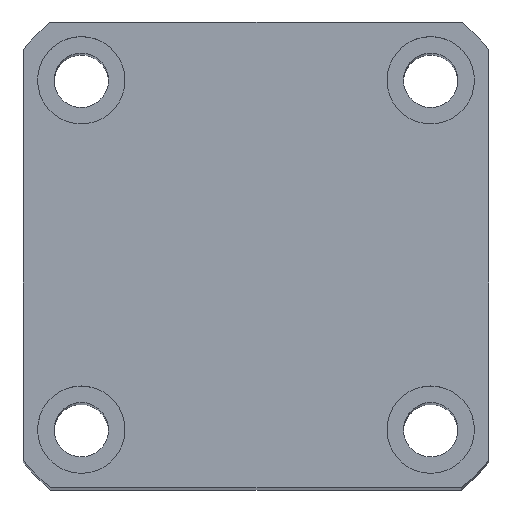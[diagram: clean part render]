
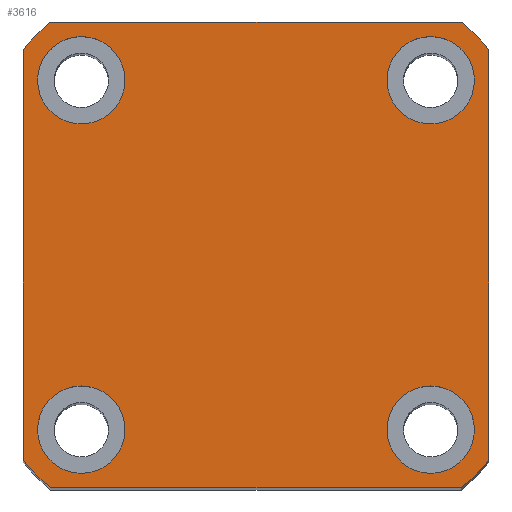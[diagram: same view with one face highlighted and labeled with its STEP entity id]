
A CAD part, top view. The second image highlights one B-rep face of the part: STEP entity #3616.
In plain terms, the highlighted planar face has unit normal (0, 0, 1) as drawn and (1, 0, 0) by its records, which use the part's own axes.
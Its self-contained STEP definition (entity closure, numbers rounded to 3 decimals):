
#107 = AXIS2_PLACEMENT_3D ( 'NONE', #2371, #8158, #3202 ) ;
#144 = VERTEX_POINT ( 'NONE', #2445 ) ;
#154 = EDGE_CURVE ( 'NONE', #7585, #144, #7781, .T. ) ;
#161 = VERTEX_POINT ( 'NONE', #7511 ) ;
#187 = LINE ( 'NONE', #5322, #8784 ) ;
#409 = CIRCLE ( 'NONE', #8083, 32. ) ;
#440 = VERTEX_POINT ( 'NONE', #10411 ) ;
#455 = ORIENTED_EDGE ( 'NONE', *, *, #6711, .F. ) ;
#601 = CIRCLE ( 'NONE', #107, 32. ) ;
#608 = VECTOR ( 'NONE', #2687, 1000. ) ;
#642 = EDGE_CURVE ( 'NONE', #7098, #1463, #7905, .T. ) ;
#686 = CARTESIAN_POINT ( 'NONE',  ( 125., -18., -22.5 ) ) ;
#714 = EDGE_CURVE ( 'NONE', #144, #7585, #5673, .T. ) ;
#731 = AXIS2_PLACEMENT_3D ( 'NONE', #8481, #8741, #4998 ) ;
#846 = VERTEX_POINT ( 'NONE', #9102 ) ;
#925 = DIRECTION ( 'NONE',  ( 1., 0., 0. ) ) ;
#1073 = CARTESIAN_POINT ( 'NONE',  ( 125., 24., 24. ) ) ;
#1349 = EDGE_LOOP ( 'NONE', ( #3895, #455 ) ) ;
#1358 = DIRECTION ( 'NONE',  ( 1., 0., 0. ) ) ;
#1382 = EDGE_CURVE ( 'NONE', #5609, #3676, #7243, .T. ) ;
#1463 = VERTEX_POINT ( 'NONE', #5955 ) ;
#1531 = DIRECTION ( 'NONE',  ( 1., 0., 0. ) ) ;
#1601 = DIRECTION ( 'NONE',  ( 0., 1., 0. ) ) ;
#1645 = ORIENTED_EDGE ( 'NONE', *, *, #7937, .F. ) ;
#1651 = CARTESIAN_POINT ( 'NONE',  ( 125., -18., 18. ) ) ;
#1656 = DIRECTION ( 'NONE',  ( 1., 0., 0. ) ) ;
#1802 = DIRECTION ( 'NONE',  ( 0., 0., -1. ) ) ;
#1837 = DIRECTION ( 'NONE',  ( 1., 0., 0. ) ) ;
#1847 = EDGE_CURVE ( 'NONE', #846, #9527, #10083, .T. ) ;
#1982 = CARTESIAN_POINT ( 'NONE',  ( 125., -18., 18. ) ) ;
#2005 = EDGE_CURVE ( 'NONE', #4894, #4930, #2453, .T. ) ;
#2145 = CARTESIAN_POINT ( 'NONE',  ( 125., 0., 0. ) ) ;
#2151 = AXIS2_PLACEMENT_3D ( 'NONE', #1982, #1358, #6234 ) ;
#2249 = CIRCLE ( 'NONE', #8920, 32. ) ;
#2297 = ORIENTED_EDGE ( 'NONE', *, *, #2005, .T. ) ;
#2303 = CARTESIAN_POINT ( 'NONE',  ( 125., 21.166, 24. ) ) ;
#2371 = CARTESIAN_POINT ( 'NONE',  ( 125., 0., 0. ) ) ;
#2389 = AXIS2_PLACEMENT_3D ( 'NONE', #6618, #1656, #7467 ) ;
#2400 = VERTEX_POINT ( 'NONE', #6145 ) ;
#2445 = CARTESIAN_POINT ( 'NONE',  ( 125., -18., 13.5 ) ) ;
#2453 = CIRCLE ( 'NONE', #7414, 32. ) ;
#2476 = EDGE_LOOP ( 'NONE', ( #1645, #4231 ) ) ;
#2517 = EDGE_CURVE ( 'NONE', #161, #2400, #2851, .T. ) ;
#2606 = CARTESIAN_POINT ( 'NONE',  ( 125., 18., -18. ) ) ;
#2687 = DIRECTION ( 'NONE',  ( 0., -1., 0. ) ) ;
#2851 = LINE ( 'NONE', #4678, #4760 ) ;
#2986 = DIRECTION ( 'NONE',  ( 0., 0., -1. ) ) ;
#3003 = ORIENTED_EDGE ( 'NONE', *, *, #9762, .T. ) ;
#3158 = CIRCLE ( 'NONE', #9338, 4.5 ) ;
#3202 = DIRECTION ( 'NONE',  ( 0., 0., -1. ) ) ;
#3322 = DIRECTION ( 'NONE',  ( 1., 0., 0. ) ) ;
#3353 = ORIENTED_EDGE ( 'NONE', *, *, #7328, .F. ) ;
#3419 = DIRECTION ( 'NONE',  ( 0., 0., -1. ) ) ;
#3546 = DIRECTION ( 'NONE',  ( 0., 0., -1. ) ) ;
#3594 = CARTESIAN_POINT ( 'NONE',  ( 125., 0., 0. ) ) ;
#3595 = AXIS2_PLACEMENT_3D ( 'NONE', #5242, #925, #3546 ) ;
#3602 = ORIENTED_EDGE ( 'NONE', *, *, #5655, .T. ) ;
#3616 = ADVANCED_FACE ( 'NONE', ( #6461, #4015, #10606, #4539, #8416 ), #5961, .T. ) ;
#3676 = VERTEX_POINT ( 'NONE', #9085 ) ;
#3895 = ORIENTED_EDGE ( 'NONE', *, *, #5817, .F. ) ;
#3900 = ORIENTED_EDGE ( 'NONE', *, *, #8446, .T. ) ;
#3985 = AXIS2_PLACEMENT_3D ( 'NONE', #6485, #1531, #7329 ) ;
#4015 = FACE_BOUND ( 'NONE', #9839, .T. ) ;
#4231 = ORIENTED_EDGE ( 'NONE', *, *, #1847, .F. ) ;
#4439 = VECTOR ( 'NONE', #1601, 1000. ) ;
#4539 = FACE_BOUND ( 'NONE', #5759, .T. ) ;
#4672 = ORIENTED_EDGE ( 'NONE', *, *, #1382, .T. ) ;
#4677 = CARTESIAN_POINT ( 'NONE',  ( 125., -21.166, -24. ) ) ;
#4678 = CARTESIAN_POINT ( 'NONE',  ( 125., -24., 24. ) ) ;
#4692 = CARTESIAN_POINT ( 'NONE',  ( 125., -18., 22.5 ) ) ;
#4760 = VECTOR ( 'NONE', #10740, 1000. ) ;
#4894 = VERTEX_POINT ( 'NONE', #7238 ) ;
#4916 = CARTESIAN_POINT ( 'NONE',  ( 125., -18., -18. ) ) ;
#4930 = VERTEX_POINT ( 'NONE', #8976 ) ;
#4997 = CARTESIAN_POINT ( 'NONE',  ( 125., 18., -22.5 ) ) ;
#4998 = DIRECTION ( 'NONE',  ( 0., 0., -1. ) ) ;
#5242 = CARTESIAN_POINT ( 'NONE',  ( 125., 18., 18. ) ) ;
#5252 = AXIS2_PLACEMENT_3D ( 'NONE', #1651, #7793, #1802 ) ;
#5322 = CARTESIAN_POINT ( 'NONE',  ( 125., 24., 24. ) ) ;
#5344 = CARTESIAN_POINT ( 'NONE',  ( 125., 18., 22.5 ) ) ;
#5470 = AXIS2_PLACEMENT_3D ( 'NONE', #6789, #1837, #7634 ) ;
#5609 = VERTEX_POINT ( 'NONE', #2303 ) ;
#5655 = EDGE_CURVE ( 'NONE', #3676, #161, #601, .T. ) ;
#5673 = CIRCLE ( 'NONE', #5252, 4.5 ) ;
#5738 = DIRECTION ( 'NONE',  ( 0., 0., -1. ) ) ;
#5758 = VERTEX_POINT ( 'NONE', #8189 ) ;
#5759 = EDGE_LOOP ( 'NONE', ( #3353, #9058 ) ) ;
#5817 = EDGE_CURVE ( 'NONE', #8773, #440, #8669, .T. ) ;
#5955 = CARTESIAN_POINT ( 'NONE',  ( 125., 18., 13.5 ) ) ;
#5961 = PLANE ( 'NONE',  #5470 ) ;
#6145 = CARTESIAN_POINT ( 'NONE',  ( 125., -24., -21.166 ) ) ;
#6234 = DIRECTION ( 'NONE',  ( 0., 0., -1. ) ) ;
#6322 = ORIENTED_EDGE ( 'NONE', *, *, #8432, .T. ) ;
#6461 = FACE_BOUND ( 'NONE', #1349, .T. ) ;
#6485 = CARTESIAN_POINT ( 'NONE',  ( 125., 18., 18. ) ) ;
#6566 = CARTESIAN_POINT ( 'NONE',  ( 125., 24., -24. ) ) ;
#6618 = CARTESIAN_POINT ( 'NONE',  ( 125., -18., -18. ) ) ;
#6623 = LINE ( 'NONE', #6566, #4439 ) ;
#6711 = EDGE_CURVE ( 'NONE', #440, #8773, #8871, .T. ) ;
#6789 = CARTESIAN_POINT ( 'NONE',  ( 125., 0., 0. ) ) ;
#7007 = DIRECTION ( 'NONE',  ( 0., 0., 1. ) ) ;
#7098 = VERTEX_POINT ( 'NONE', #5344 ) ;
#7144 = EDGE_CURVE ( 'NONE', #5758, #5609, #409, .T. ) ;
#7238 = CARTESIAN_POINT ( 'NONE',  ( 125., 21.166, -24. ) ) ;
#7243 = LINE ( 'NONE', #1073, #608 ) ;
#7328 = EDGE_CURVE ( 'NONE', #1463, #7098, #7954, .T. ) ;
#7329 = DIRECTION ( 'NONE',  ( 0., 0., -1. ) ) ;
#7414 = AXIS2_PLACEMENT_3D ( 'NONE', #3594, #9576, #9359 ) ;
#7467 = DIRECTION ( 'NONE',  ( 0., 0., -1. ) ) ;
#7511 = CARTESIAN_POINT ( 'NONE',  ( 125., -24., 21.166 ) ) ;
#7561 = ORIENTED_EDGE ( 'NONE', *, *, #7144, .T. ) ;
#7585 = VERTEX_POINT ( 'NONE', #4692 ) ;
#7634 = DIRECTION ( 'NONE',  ( 0., 0., -1. ) ) ;
#7781 = CIRCLE ( 'NONE', #2151, 4.5 ) ;
#7793 = DIRECTION ( 'NONE',  ( 1., 0., 0. ) ) ;
#7864 = ORIENTED_EDGE ( 'NONE', *, *, #154, .F. ) ;
#7905 = CIRCLE ( 'NONE', #3595, 4.5 ) ;
#7931 = DIRECTION ( 'NONE',  ( 1., 0., 0. ) ) ;
#7937 = EDGE_CURVE ( 'NONE', #9527, #846, #3158, .T. ) ;
#7954 = CIRCLE ( 'NONE', #3985, 4.5 ) ;
#8083 = AXIS2_PLACEMENT_3D ( 'NONE', #2145, #7931, #2986 ) ;
#8158 = DIRECTION ( 'NONE',  ( 1., 0., 0. ) ) ;
#8189 = CARTESIAN_POINT ( 'NONE',  ( 125., 24., 21.166 ) ) ;
#8279 = CARTESIAN_POINT ( 'NONE',  ( 125., 0., 0. ) ) ;
#8328 = ORIENTED_EDGE ( 'NONE', *, *, #2517, .T. ) ;
#8377 = DIRECTION ( 'NONE',  ( 1., 0., 0. ) ) ;
#8416 = FACE_OUTER_BOUND ( 'NONE', #9460, .T. ) ;
#8432 = EDGE_CURVE ( 'NONE', #9889, #4894, #6623, .T. ) ;
#8446 = EDGE_CURVE ( 'NONE', #2400, #9889, #2249, .T. ) ;
#8481 = CARTESIAN_POINT ( 'NONE',  ( 125., 18., -18. ) ) ;
#8669 = CIRCLE ( 'NONE', #2389, 4.5 ) ;
#8741 = DIRECTION ( 'NONE',  ( 1., 0., 0. ) ) ;
#8773 = VERTEX_POINT ( 'NONE', #686 ) ;
#8784 = VECTOR ( 'NONE', #7007, 1000. ) ;
#8871 = CIRCLE ( 'NONE', #9948, 4.5 ) ;
#8920 = AXIS2_PLACEMENT_3D ( 'NONE', #8279, #3322, #9126 ) ;
#8976 = CARTESIAN_POINT ( 'NONE',  ( 125., 24., -21.166 ) ) ;
#9058 = ORIENTED_EDGE ( 'NONE', *, *, #642, .F. ) ;
#9059 = ORIENTED_EDGE ( 'NONE', *, *, #714, .F. ) ;
#9085 = CARTESIAN_POINT ( 'NONE',  ( 125., -21.166, 24. ) ) ;
#9102 = CARTESIAN_POINT ( 'NONE',  ( 125., 18., -13.5 ) ) ;
#9126 = DIRECTION ( 'NONE',  ( 0., 0., -1. ) ) ;
#9338 = AXIS2_PLACEMENT_3D ( 'NONE', #2606, #8377, #3419 ) ;
#9359 = DIRECTION ( 'NONE',  ( 0., 0., -1. ) ) ;
#9460 = EDGE_LOOP ( 'NONE', ( #6322, #2297, #3003, #7561, #4672, #3602, #8328, #3900 ) ) ;
#9527 = VERTEX_POINT ( 'NONE', #4997 ) ;
#9576 = DIRECTION ( 'NONE',  ( 1., 0., 0. ) ) ;
#9762 = EDGE_CURVE ( 'NONE', #4930, #5758, #187, .T. ) ;
#9839 = EDGE_LOOP ( 'NONE', ( #9059, #7864 ) ) ;
#9889 = VERTEX_POINT ( 'NONE', #4677 ) ;
#9948 = AXIS2_PLACEMENT_3D ( 'NONE', #4916, #10698, #5738 ) ;
#10083 = CIRCLE ( 'NONE', #731, 4.5 ) ;
#10411 = CARTESIAN_POINT ( 'NONE',  ( 125., -18., -13.5 ) ) ;
#10606 = FACE_BOUND ( 'NONE', #2476, .T. ) ;
#10698 = DIRECTION ( 'NONE',  ( 1., 0., 0. ) ) ;
#10740 = DIRECTION ( 'NONE',  ( 0., 0., -1. ) ) ;
